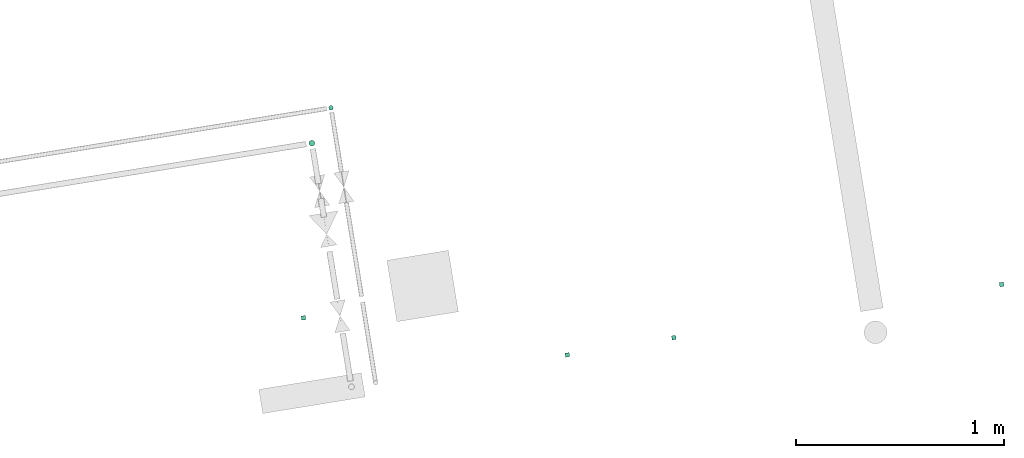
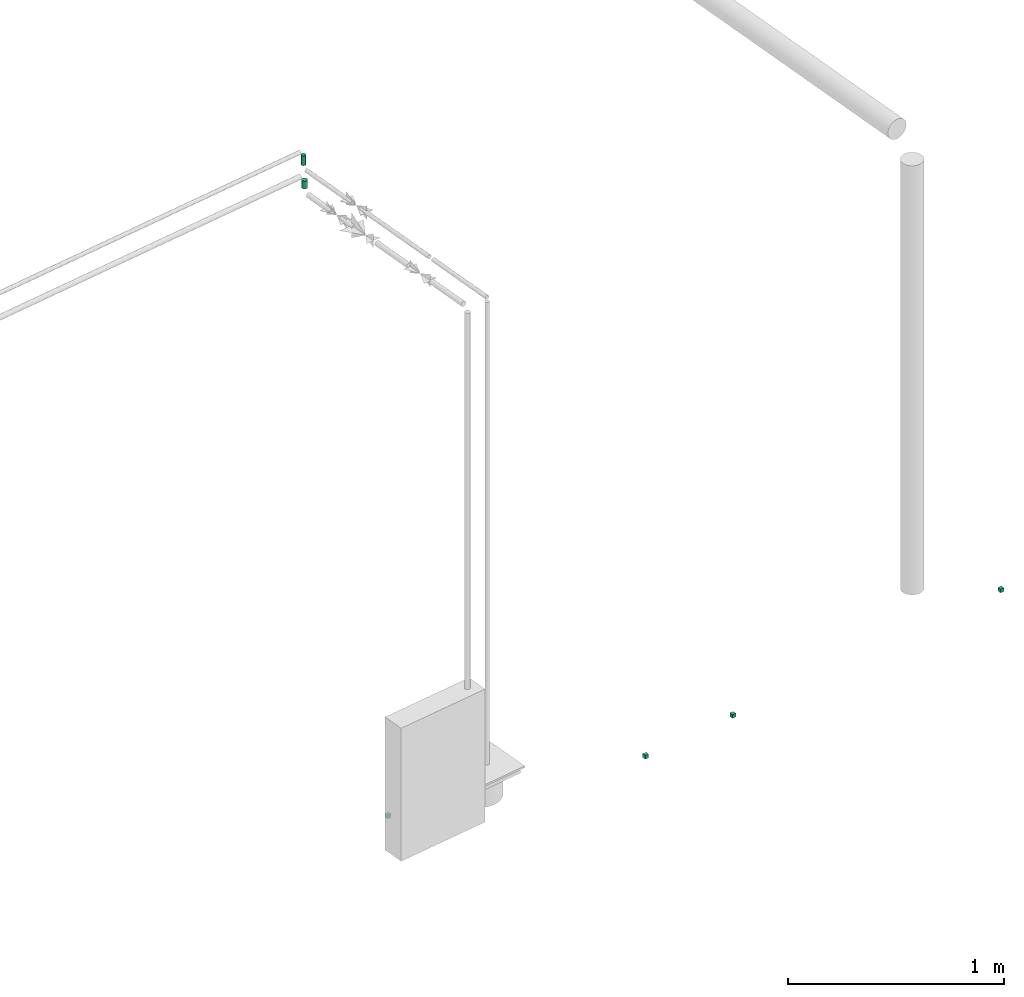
# One storey, part 7 of 10: 4 flow terminals, 2 flow segments.
"""IFC2X3 building model written with IfcOpenShell, lengths in millimetres."""

import ifcopenshell
import ifcopenshell.guid

model = None  # the IFC model being written
_history = None  # IfcOwnerHistory: only IFC2X3 demands one
_inside = {}  # id of a spatial element -> (the spatial element, [elements in it])
_under = {}  # id of a project, library or spatial element -> (it, [spatial elements below it])
_declared = {}  # id of a project -> (the project, [libraries it declares])
_typed = {}  # id of a type object -> (the type object, [elements of that type])
_made_of = {}  # id of a material, layer set ... -> (it, [elements and type objects made of it])


def new_model(schema):
    """Start an empty IFC model of exactly this schema.

    Asked for "IFC4X3", IfcOpenShell would pick the latest addendum, in which some entities
    have other attributes; the version numbers below select the first issue.
    IFC2X3 requires an IfcOwnerHistory on every rooted entity: one is made here for all.
    """
    global model, _history
    if schema == "IFC4X3":
        model = ifcopenshell.file(schema_version=(4, 3, 0, 0))
    else:
        model = ifcopenshell.file(schema=schema)
    _inside.clear()
    _under.clear()
    _declared.clear()
    _typed.clear()
    _made_of.clear()
    _history = None
    if model.schema == "IFC2X3":
        org = make("IfcOrganization", Name="unknown")
        user = make(
            "IfcPersonAndOrganization",
            ThePerson=make("IfcPerson", FamilyName="unknown"),
            TheOrganization=org,
        )
        app = make(
            "IfcApplication",
            ApplicationDeveloper=org,
            Version="unknown",
            ApplicationFullName="unknown",
            ApplicationIdentifier="unknown",
        )
        _history = make(
            "IfcOwnerHistory",
            OwningUser=user,
            OwningApplication=app,
            ChangeAction="ADDED",
            CreationDate=0,
        )
    return model


def make(cls, **values):
    """One entity of the class cls with the attributes given. An attribute that is None is left unset."""
    return model.create_entity(
        cls, **{name: value for name, value in values.items() if value is not None}
    )


def entity(cls, *values):
    """Any entity or typed value of the class cls, its attributes in the order of the schema. None: left unset."""
    e = model.create_entity(cls)
    for i, value in enumerate(values):
        if value is not None:
            e[i] = value
    return e


def rooted(cls, **values):
    """An entity with a GlobalId (a new one), such as an element, a storey or a relation."""
    return make(cls, GlobalId=ifcopenshell.guid.new(), OwnerHistory=_history, **values)


def si_unit(unit_type, name, prefix=None):
    """IfcSIUnit, for example si_unit("LENGTHUNIT", "METRE", prefix="MILLI")."""
    return make("IfcSIUnit", UnitType=unit_type, Prefix=prefix, Name=name)


def converted_unit(unit_type, name, factor, base, dimensions=None, offset=None):
    """IfcConversionBasedUnit, such as the inch: factor (a typed value) times the base unit."""
    return make(
        "IfcConversionBasedUnit"
        if offset is None
        else "IfcConversionBasedUnitWithOffset",
        ConversionOffset=offset,
        Dimensions=None
        if dimensions is None
        else entity("IfcDimensionalExponents", *dimensions),
        UnitType=unit_type,
        Name=name,
        ConversionFactor=make(
            "IfcMeasureWithUnit", ValueComponent=factor, UnitComponent=base
        ),
    )


def derived_unit(unit_type, elements):
    """IfcDerivedUnit: a product of units, each with its exponent."""
    return make(
        "IfcDerivedUnit",
        Elements=[
            make("IfcDerivedUnitElement", Unit=unit, Exponent=power)
            for unit, power in elements
        ],
        UnitType=unit_type,
    )


def assignment(units):
    """IfcUnitAssignment: the units of a project."""
    return None if units is None else make("IfcUnitAssignment", Units=units)


def point(xyz):
    """IfcCartesianPoint."""
    return None if xyz is None else make("IfcCartesianPoint", Coordinates=xyz)


def direction(xyz):
    """IfcDirection."""
    return None if xyz is None else make("IfcDirection", DirectionRatios=xyz)


def frame(location, z_axis=None, x_axis=None):
    """IfcAxis2Placement3D, a coordinate frame: its origin and axes. An axis left out is left unset."""
    return make(
        "IfcAxis2Placement3D",
        Location=point(location),
        Axis=direction(z_axis),
        RefDirection=direction(x_axis),
    )


def frame_2d(location, x_axis=None):
    """IfcAxis2Placement2D, a coordinate frame in the plane: its origin and x axis."""
    return make(
        "IfcAxis2Placement2D", Location=point(location), RefDirection=direction(x_axis)
    )


def origin():
    """The frame at (0, 0, 0) with its axes left unset."""
    return frame((0.0, 0.0, 0.0))


def origin_with_axes():
    """The frame at (0, 0, 0) with the z axis (0, 0, 1) and the x axis (1, 0, 0) written out."""
    return frame((0.0, 0.0, 0.0), z_axis=(0.0, 0.0, 1.0), x_axis=(1.0, 0.0, 0.0))


def origin_2d_with_axis():
    """The frame at (0, 0) in the plane with the x axis (1, 0) written out."""
    return frame_2d((0.0, 0.0), x_axis=(1.0, 0.0))


def place(relative_to, where):
    """IfcLocalPlacement: puts the frame where relative to a parent placement (None: the world)."""
    return make(
        "IfcLocalPlacement", PlacementRelTo=relative_to, RelativePlacement=where
    )


def context(
    kind, dimensions, precision=None, world=None, true_north=None, identifier=None
):
    """IfcGeometricRepresentationContext, for example the 3D "Model" context."""
    return make(
        "IfcGeometricRepresentationContext",
        ContextIdentifier=identifier,
        ContextType=kind,
        CoordinateSpaceDimension=dimensions,
        Precision=precision,
        WorldCoordinateSystem=world,
        TrueNorth=true_north,
    )


def subcontext(parent, identifier, kind, view, scale=None):
    """IfcGeometricRepresentationSubContext, for example "Body" below "Model"."""
    return make(
        "IfcGeometricRepresentationSubContext",
        ContextIdentifier=identifier,
        ContextType=kind,
        ParentContext=parent,
        TargetScale=scale,
        TargetView=view,
    )


def project(units=None, contexts=None):
    """IfcProject with its units and contexts."""
    return rooted(
        "IfcProject",
        Name="project",
        RepresentationContexts=contexts,
        UnitsInContext=assignment(units),
    )


def spatial(cls, under=None, at=None, **own):
    """A site, building, storey or space (cls), placed at a placement, below another one or the project."""
    s = rooted(cls, ObjectPlacement=at, **own)
    if under is not None:
        _under.setdefault(under.id(), (under, []))[1].append(s)
    return s


def profile(cls, at=None, kind="AREA", **sizes):
    """A parametric profile (cls). Its sizes go by their IFC names, for example OverallWidth=200.0."""
    return make(cls, ProfileType=kind, Position=at, **sizes)


def rectangle(**sizes):
    """IfcRectangleProfileDef."""
    return profile("IfcRectangleProfileDef", **sizes)


def circle(**sizes):
    """IfcCircleProfileDef."""
    return profile("IfcCircleProfileDef", **sizes)


def extrude(swept, where, along, depth):
    """IfcExtrudedAreaSolid: the profile swept, set in the frame where, extruded along a direction by depth."""
    return make(
        "IfcExtrudedAreaSolid",
        SweptArea=swept,
        Position=where,
        ExtrudedDirection=direction(along),
        Depth=depth,
    )


def shape(context_of_items, identifier, shape_type, items):
    """IfcShapeRepresentation: the items that make up one representation, for example the "Body"."""
    return make(
        "IfcShapeRepresentation",
        ContextOfItems=context_of_items,
        RepresentationIdentifier=identifier,
        RepresentationType=shape_type,
        Items=items,
    )


def source(mapping_origin, context_of_items, identifier, shape_type, items):
    """IfcRepresentationMap: a shape defined once, which mapped items show again and again."""
    return make(
        "IfcRepresentationMap",
        MappingOrigin=mapping_origin,
        MappedRepresentation=shape(context_of_items, identifier, shape_type, items),
    )


def transform(
    local_origin,
    x_axis=None,
    y_axis=None,
    z_axis=None,
    scale=None,
    scale2=None,
    scale3=None,
    uniform=True,
):
    """IfcCartesianTransformationOperator3D, or its non-uniform kind. x_axis, y_axis, z_axis: its Axis1, 2, 3."""
    if uniform:
        return make(
            "IfcCartesianTransformationOperator3D",
            Axis1=direction(x_axis),
            Axis2=direction(y_axis),
            LocalOrigin=point(local_origin),
            Scale=scale,
            Axis3=direction(z_axis),
        )
    return make(
        "IfcCartesianTransformationOperator3DnonUniform",
        Axis1=direction(x_axis),
        Axis2=direction(y_axis),
        LocalOrigin=point(local_origin),
        Scale=scale,
        Axis3=direction(z_axis),
        Scale2=scale2,
        Scale3=scale3,
    )


def mapped(mapping_source, mapping_target):
    """IfcMappedItem: shows the shape of a source again, moved by a transform."""
    return make(
        "IfcMappedItem", MappingSource=mapping_source, MappingTarget=mapping_target
    )


def material(Name=None, Category=None):
    """IfcMaterial."""
    return make("IfcMaterial", Name=Name, Category=Category)


def made_of(thing, what):
    """Note that an element or type object is made of a material, layer set ...; save() writes the relation."""
    if what is not None:
        _made_of.setdefault(what.id(), (what, []))[1].append(thing)
    return thing


def type_object(cls, material=None, **own):
    """A type object (cls), such as IfcWallType, which elements share."""
    return made_of(rooted(cls, **own), material)


def element(
    cls,
    number,
    at=None,
    inside=None,
    cuts=None,
    type_object=None,
    material=None,
    context=None,
    identifier="Body",
    shape_type=None,
    held_by="IfcProductDefinitionShape",
    body=None,
    shapes=None,
    **own,
):
    """One element of the class cls, such as IfcWall. Its Tag is "e" and its number.

    at: its placement. inside: the storey or other place that contains it. cuts: it is an
    opening in that element (IfcRelVoidsElement). A single representation is given by context,
    identifier, shape_type and body (its items); several are given by shapes. held_by: the class
    of the entity that holds the representations. save() writes the other relations.
    """
    e = rooted(cls, Tag="e%d" % number, ObjectPlacement=at, **own)
    if body is not None:
        shapes = [shape(context, identifier, shape_type, body)]
    if shapes is not None:
        e.Representation = make(held_by, Representations=shapes)
    if inside is not None:
        _inside.setdefault(inside.id(), (inside, []))[1].append(e)
    if cuts is not None:
        rooted(
            "IfcRelVoidsElement", RelatingBuildingElement=cuts, RelatedOpeningElement=e
        )
    if type_object is not None:
        _typed.setdefault(type_object.id(), (type_object, []))[1].append(e)
    return made_of(e, material)


def aggregate(whole, parts):
    """IfcRelAggregates: a whole, such as a stair, and the parts it consists of."""
    return rooted("IfcRelAggregates", RelatingObject=whole, RelatedObjects=parts)


def save(model, path):
    """Write the relations noted so far, then the file.

    IfcRelAggregates (storeys below a building ...), IfcRelContainedInSpatialStructure (elements
    in a storey), IfcRelDefinesByType, IfcRelAssociatesMaterial and IfcRelDeclares: one each for
    every whole, place, type object, material and project.
    """
    for whole, parts in _under.values():
        aggregate(whole, parts)
    for where, things in _inside.values():
        rooted(
            "IfcRelContainedInSpatialStructure",
            RelatedElements=things,
            RelatingStructure=where,
        )
    for kind, things in _typed.values():
        rooted("IfcRelDefinesByType", RelatedObjects=things, RelatingType=kind)
    for what, things in _made_of.values():
        rooted("IfcRelAssociatesMaterial", RelatedObjects=things, RelatingMaterial=what)
    for by, libraries in _declared.values():
        rooted("IfcRelDeclares", RelatingContext=by, RelatedDefinitions=libraries)
    model.write(path)


model = new_model("IFC2X3")

# Units and contexts
model_context = context("Model", 3, precision=0.01, world=origin(), true_north=direction((6.12323399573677e-17, 1.0)))
plan_context = context("Plan", 3, precision=1e-05, world=origin_with_axes())
body_context = subcontext(model_context, "Body", "Model", "MODEL_VIEW")
ifc_project = project(units=[converted_unit("PLANEANGLEUNIT", "DEGREE", entity("IfcPositiveLengthMeasure", 0.0174532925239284), si_unit("PLANEANGLEUNIT", "RADIAN"), dimensions=[0, 0, 0, 0, 0, 0, 0]), si_unit("AREAUNIT", "SQUARE_METRE"), si_unit("LENGTHUNIT", "METRE", prefix="MILLI"), si_unit("MASSUNIT", "GRAM", prefix="KILO"), si_unit("POWERUNIT", "WATT"), si_unit("PRESSUREUNIT", "PASCAL", prefix="KILO"), si_unit("FORCEUNIT", "NEWTON", prefix="KILO"), si_unit("ELECTRICVOLTAGEUNIT", "VOLT"), si_unit("ELECTRICCURRENTUNIT", "AMPERE"), si_unit("THERMODYNAMICTEMPERATUREUNIT", "DEGREE_CELSIUS"), si_unit("TIMEUNIT", "SECOND"), si_unit("VOLUMEUNIT", "CUBIC_METRE"), derived_unit("LINEARVELOCITYUNIT", [(si_unit("LENGTHUNIT", "METRE"), 1), (si_unit("TIMEUNIT", "SECOND"), -1)]), derived_unit("VOLUMETRICFLOWRATEUNIT", [(si_unit("VOLUMEUNIT", "CUBIC_METRE"), 1), (si_unit("TIMEUNIT", "SECOND"), -1)]), derived_unit("THERMALTRANSMITTANCEUNIT", [(si_unit("POWERUNIT", "WATT"), 1), (si_unit("THERMODYNAMICTEMPERATUREUNIT", "KELVIN"), -1), (si_unit("AREAUNIT", "SQUARE_METRE"), -1)]), derived_unit("SOUNDPRESSUREUNIT", [(si_unit("PRESSUREUNIT", "PASCAL"), 1)])], contexts=[model_context, plan_context])

# Site, building, storey
site_placement = place(None, frame((-0.000710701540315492, 0.00438415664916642, 0.0), z_axis=(0.0, 0.0, 1.0), x_axis=(-0.160236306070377, 0.987078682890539, 0.0)))
site = spatial("IfcSite", under=ifc_project, at=site_placement, Name="Default", CompositionType="ELEMENT")
building_placement = place(site_placement, origin_with_axes())
building = spatial("IfcBuilding", under=site, at=building_placement, CompositionType="ELEMENT")
storey_placement = place(building_placement, frame((0.0, 0.0, 50999.9999999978), z_axis=(0.0, 0.0, 1.0), x_axis=(1.0, 0.0, 0.0)))
storey = spatial("IfcBuildingStorey", under=building, at=storey_placement, Name="Nivå D", CompositionType="ELEMENT", Elevation=50999.9999999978)

# Flow terminals
ifc_material = material(Name="<Unnamed>")
distribution_element_type_1 = type_object("IfcDistributionElementType", Name="PLUMBING FIXTURE - Ghost object -:VARMTVANNSBEREDER -  - NW502T", material=ifc_material)
shared_shape = source(origin(), body_context, "Body", "SweptSolid", [
    extrude(rectangle(XDim=20.0, YDim=20.0, at=origin_2d_with_axis()), frame((0.0, 0.0, 0.0), z_axis=(0.0, 0.0, 1.0), x_axis=(0.0, 1.0, 0.0)), (0.0, 0.0, 1.0), 20.0),
])
flow_terminal_1_placement = place(storey_placement, frame((769278.109060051, -596452.618231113, 0.0), z_axis=(0.0, 0.0, 1.0), x_axis=(1.0, 0.0, 0.0)))
element("IfcFlowTerminal", 1, at=flow_terminal_1_placement, inside=storey, type_object=distribution_element_type_1, material=ifc_material, Name="PLUMBING FIXTURE - Ghost object -:VARMTVANNSBEREDER -  - NW502T", ObjectType="PLUMBING FIXTURE - Ghost object -:VARMTVANNSBEREDER -  - NW502T", context=body_context, shape_type="MappedRepresentation", body=[
    mapped(shared_shape, transform((0.0, 0.0, 0.0), scale=1.0)),
])
distribution_element_type_2 = type_object("IfcDistributionElementType", Name="PLUMBING FIXTURE - Ghost object -:ARMATUR -  - UB512T", material=ifc_material)
flow_terminal_2_placement = place(storey_placement, frame((768898.303173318, -597678.404837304, 0.0), z_axis=(0.0, 0.0, 1.0), x_axis=(1.0, 0.0, 0.0)))
element("IfcFlowTerminal", 2, at=flow_terminal_2_placement, inside=storey, type_object=distribution_element_type_2, material=ifc_material, Name="PLUMBING FIXTURE - Ghost object -:ARMATUR -  - UB512T", ObjectType="PLUMBING FIXTURE - Ghost object -:ARMATUR -  - UB512T", context=body_context, shape_type="MappedRepresentation", body=[
    mapped(shared_shape, transform((0.0, 0.0, 0.0), scale=1.0)),
])
distribution_element_type_3 = type_object("IfcDistributionElementType", Name="PLUMBING FIXTURE - Ghost object -:ARMATUR -  - UB513T", material=ifc_material)
flow_terminal_3_placement = place(storey_placement, frame((768898.303173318, -598198.105960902, 0.0), z_axis=(0.0, 0.0, 1.0), x_axis=(1.0, 0.0, 0.0)))
element("IfcFlowTerminal", 3, at=flow_terminal_3_placement, inside=storey, type_object=distribution_element_type_3, material=ifc_material, Name="PLUMBING FIXTURE - Ghost object -:ARMATUR -  - UB513T", ObjectType="PLUMBING FIXTURE - Ghost object -:ARMATUR -  - UB513T", context=body_context, shape_type="MappedRepresentation", body=[
    mapped(shared_shape, transform((0.0, 0.0, 0.0), scale=1.0)),
])
distribution_element_type_4 = type_object("IfcDistributionElementType", Name="PLUMBING FIXTURE - Ghost object -:ARMATUR -  - UB514T", material=ifc_material)
flow_terminal_4_placement = place(storey_placement, frame((768898.303173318, -599797.280566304, 0.0), z_axis=(0.0, 0.0, 1.0), x_axis=(1.0, 0.0, 0.0)))
element("IfcFlowTerminal", 4, at=flow_terminal_4_placement, inside=storey, type_object=distribution_element_type_4, material=ifc_material, Name="PLUMBING FIXTURE - Ghost object -:ARMATUR -  - UB514T", ObjectType="PLUMBING FIXTURE - Ghost object -:ARMATUR -  - UB514T", context=body_context, shape_type="MappedRepresentation", body=[
    mapped(shared_shape, transform((0.0, 0.0, 0.0), scale=1.0)),
])

# Flow segments
pipe_segment_type = type_object("IfcPipeSegmentType", Name="Pipe Types:Kobberrør", PredefinedType="NOTDEFINED")
flow_segment_1_placement = place(storey_placement, origin_with_axes())
element("IfcFlowSegment", 5, at=flow_segment_1_placement, inside=storey, type_object=pipe_segment_type, Name="Pipe Types:Kobberrør", ObjectType="Pipe Types:Kobberrør", context=body_context, shape_type="SweptSolid", body=[
    extrude(circle(Radius=14.0, at=origin_2d_with_axis()), frame((770102.383502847, -596627.303776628, 3028.0), z_axis=(0.0, 0.0, 1.0), x_axis=(-1.0, 0.0, 0.0)), (0.0, 0.0, 1.0), 43.9999999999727),
])
flow_segment_2_placement = place(storey_placement, origin_with_axes())
element("IfcFlowSegment", 6, at=flow_segment_2_placement, inside=storey, type_object=pipe_segment_type, Name="Pipe Types:Kobberrør", ObjectType="Pipe Types:Kobberrør", context=body_context, shape_type="SweptSolid", body=[
    extrude(circle(Radius=11.0, at=frame_2d((0.0, 6.93034962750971e-11), x_axis=(1.0, 0.0))), frame((770255.383502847, -596745.303776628, 3022.0), z_axis=(0.0, 0.0, 1.0), x_axis=(-1.0, 0.0, 0.0)), (0.0, 0.0, 1.0), 56.0000000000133),
])

save(model, "model.ifc")
